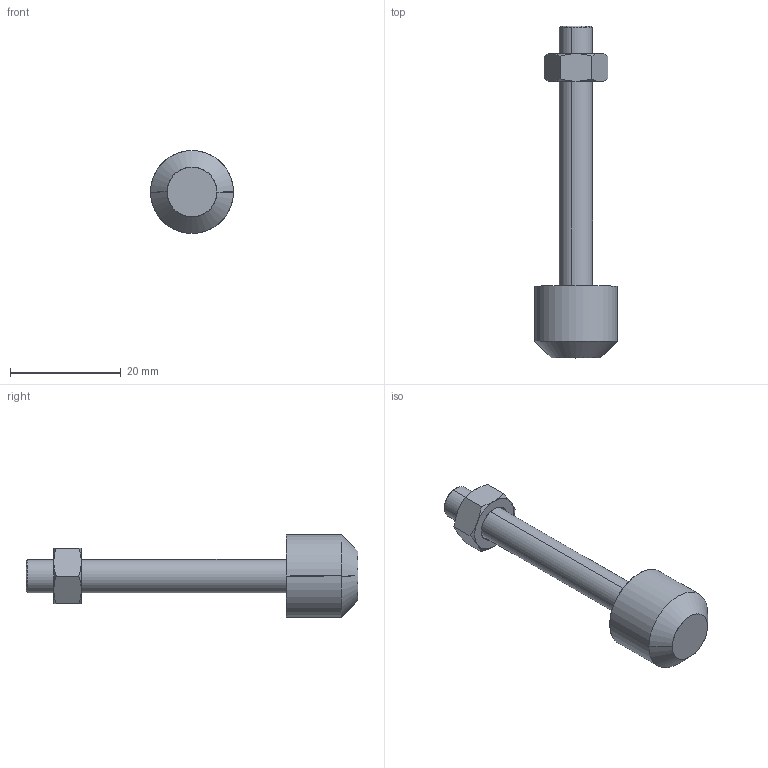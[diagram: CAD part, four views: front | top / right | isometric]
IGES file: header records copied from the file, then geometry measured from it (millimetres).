
Start section: SolidWorks IGES file using analytic representation for surfaces
Global section: file name: C:\Projetos\Ponteiras\PB\PB-M6.IGS; native system: SolidWorks 2011; preprocessor: SolidWorks 2011; author: Usuario; date: 110523.110906; units: millimetre
Bounding box: 15 x 60 x 15 mm (x, y, z)
Surface area: 2360.2 mm2 (no closed solid volume)
Topology: 0 solids, 0 shells, 44 faces, 544 edges, 542 vertices
Faces by surface type: revolution 32, bspline 12
